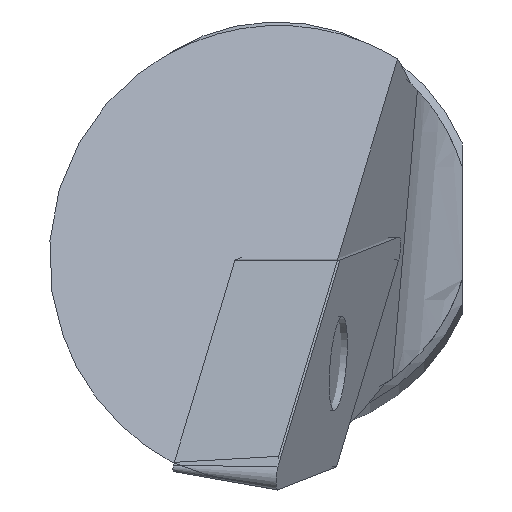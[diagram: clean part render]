
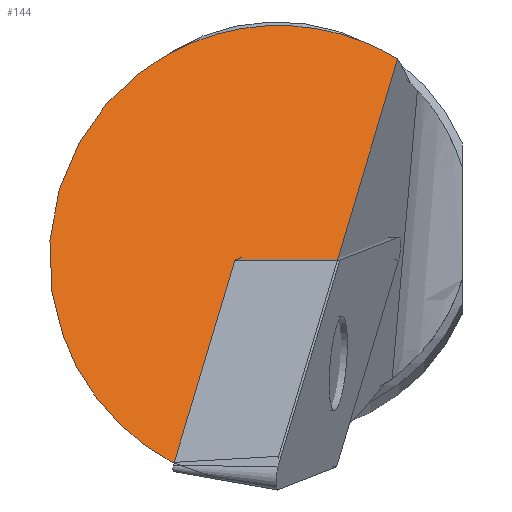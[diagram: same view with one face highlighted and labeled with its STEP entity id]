
A CAD part, top view. The second image highlights one B-rep face of the part: STEP entity #144.
In plain terms, the highlighted planar face has unit normal (-0.044, 0.773, 0.633).
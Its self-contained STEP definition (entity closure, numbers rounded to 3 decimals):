
#144=ADVANCED_FACE('',(#174),#158,.F.);
#158=PLANE('',#443);
#174=FACE_OUTER_BOUND('',#192,.T.);
#192=EDGE_LOOP('',(#250,#251,#252));
#210=ELLIPSE('',#431,10.916,6.833);
#250=ORIENTED_EDGE('',*,*,#340,.F.);
#251=ORIENTED_EDGE('',*,*,#338,.T.);
#252=ORIENTED_EDGE('',*,*,#341,.F.);
#301=VERTEX_POINT('',#560);
#307=VERTEX_POINT('',#571);
#308=VERTEX_POINT('',#575);
#338=EDGE_CURVE('',#301,#307,#379,.T.);
#340=EDGE_CURVE('',#301,#308,#380,.T.);
#341=EDGE_CURVE('',#308,#307,#210,.T.);
#379=LINE('',#572,#402);
#380=LINE('',#576,#403);
#402=VECTOR('',#472,1.);
#403=VECTOR('',#477,1.);
#431=AXIS2_PLACEMENT_3D('',#578,#480,#481);
#443=AXIS2_PLACEMENT_3D('',#641,#510,#511);
#472=DIRECTION('',(0.188,0.629,-0.754));
#477=DIRECTION('',(-0.998,-0.057,0.));
#480=DIRECTION('',(0.044,-0.773,-0.633));
#481=DIRECTION('',(0.036,-0.632,0.774));
#510=DIRECTION('',(0.044,-0.773,-0.633));
#511=DIRECTION('',(0.,0.634,-0.774));
#560=CARTESIAN_POINT('',(0.043,-6.968,0.));
#571=CARTESIAN_POINT('',(3.586,4.879,-14.215));
#572=CARTESIAN_POINT('',(-1.589,-12.423,6.546));
#575=CARTESIAN_POINT('',(-3.122,-7.148,0.));
#576=CARTESIAN_POINT('',(0.396,-6.948,0.));
#578=CARTESIAN_POINT('',(0.059,-1.036,-7.24));
#641=CARTESIAN_POINT('',(-44.112,-8.702,-0.953));
